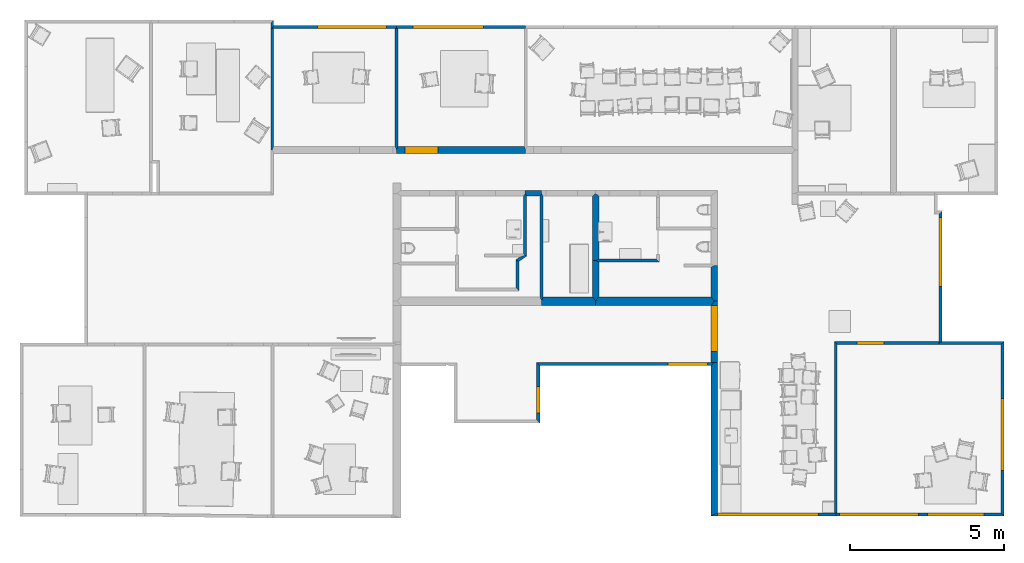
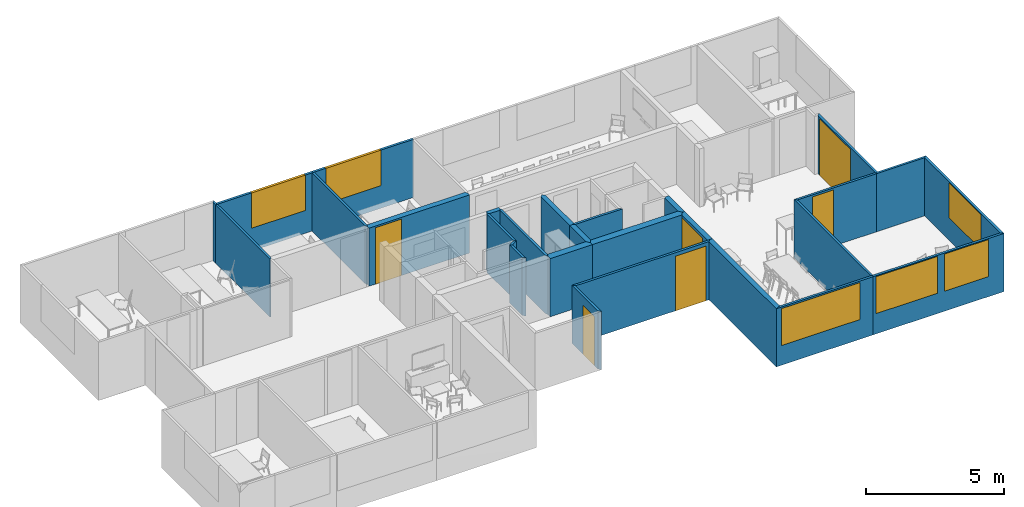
# One storey, part 3 of 25: 28 walls, 6 doors, 6 windows, 12 openings.
"""IFC2X3 building model written with IfcOpenShell, lengths in metres."""

import ifcopenshell
import ifcopenshell.guid

model = None  # the IFC model being written
_history = None  # IfcOwnerHistory: only IFC2X3 demands one
_inside = {}  # id of a spatial element -> (the spatial element, [elements in it])
_under = {}  # id of a project, library or spatial element -> (it, [spatial elements below it])
_declared = {}  # id of a project -> (the project, [libraries it declares])
_typed = {}  # id of a type object -> (the type object, [elements of that type])
_made_of = {}  # id of a material, layer set ... -> (it, [elements and type objects made of it])


def new_model(schema):
    """Start an empty IFC model of exactly this schema.

    Asked for "IFC4X3", IfcOpenShell would pick the latest addendum, in which some entities
    have other attributes; the version numbers below select the first issue.
    IFC2X3 requires an IfcOwnerHistory on every rooted entity: one is made here for all.
    """
    global model, _history
    if schema == "IFC4X3":
        model = ifcopenshell.file(schema_version=(4, 3, 0, 0))
    else:
        model = ifcopenshell.file(schema=schema)
    _inside.clear()
    _under.clear()
    _declared.clear()
    _typed.clear()
    _made_of.clear()
    _history = None
    if model.schema == "IFC2X3":
        org = make("IfcOrganization", Name="unknown")
        user = make(
            "IfcPersonAndOrganization",
            ThePerson=make("IfcPerson", FamilyName="unknown"),
            TheOrganization=org,
        )
        app = make(
            "IfcApplication",
            ApplicationDeveloper=org,
            Version="unknown",
            ApplicationFullName="unknown",
            ApplicationIdentifier="unknown",
        )
        _history = make(
            "IfcOwnerHistory",
            OwningUser=user,
            OwningApplication=app,
            ChangeAction="ADDED",
            CreationDate=0,
        )
    return model


def make(cls, **values):
    """One entity of the class cls with the attributes given. An attribute that is None is left unset."""
    return model.create_entity(
        cls, **{name: value for name, value in values.items() if value is not None}
    )


def rooted(cls, **values):
    """An entity with a GlobalId (a new one), such as an element, a storey or a relation."""
    return make(cls, GlobalId=ifcopenshell.guid.new(), OwnerHistory=_history, **values)


def si_unit(unit_type, name, prefix=None):
    """IfcSIUnit, for example si_unit("LENGTHUNIT", "METRE", prefix="MILLI")."""
    return make("IfcSIUnit", UnitType=unit_type, Prefix=prefix, Name=name)


def assignment(units):
    """IfcUnitAssignment: the units of a project."""
    return None if units is None else make("IfcUnitAssignment", Units=units)


def point(xyz):
    """IfcCartesianPoint."""
    return None if xyz is None else make("IfcCartesianPoint", Coordinates=xyz)


def direction(xyz):
    """IfcDirection."""
    return None if xyz is None else make("IfcDirection", DirectionRatios=xyz)


def frame(location, z_axis=None, x_axis=None):
    """IfcAxis2Placement3D, a coordinate frame: its origin and axes. An axis left out is left unset."""
    return make(
        "IfcAxis2Placement3D",
        Location=point(location),
        Axis=direction(z_axis),
        RefDirection=direction(x_axis),
    )


def origin_with_axes():
    """The frame at (0, 0, 0) with the z axis (0, 0, 1) and the x axis (1, 0, 0) written out."""
    return frame((0.0, 0.0, 0.0), z_axis=(0.0, 0.0, 1.0), x_axis=(1.0, 0.0, 0.0))


def place(relative_to, where):
    """IfcLocalPlacement: puts the frame where relative to a parent placement (None: the world)."""
    return make(
        "IfcLocalPlacement", PlacementRelTo=relative_to, RelativePlacement=where
    )


def context(
    kind, dimensions, precision=None, world=None, true_north=None, identifier=None
):
    """IfcGeometricRepresentationContext, for example the 3D "Model" context."""
    return make(
        "IfcGeometricRepresentationContext",
        ContextIdentifier=identifier,
        ContextType=kind,
        CoordinateSpaceDimension=dimensions,
        Precision=precision,
        WorldCoordinateSystem=world,
        TrueNorth=true_north,
    )


def subcontext(parent, identifier, kind, view, scale=None):
    """IfcGeometricRepresentationSubContext, for example "Body" below "Model"."""
    return make(
        "IfcGeometricRepresentationSubContext",
        ContextIdentifier=identifier,
        ContextType=kind,
        ParentContext=parent,
        TargetScale=scale,
        TargetView=view,
    )


def project(units=None, contexts=None):
    """IfcProject with its units and contexts."""
    return rooted(
        "IfcProject",
        Name="project",
        RepresentationContexts=contexts,
        UnitsInContext=assignment(units),
    )


def spatial(cls, under=None, at=None, **own):
    """A site, building, storey or space (cls), placed at a placement, below another one or the project."""
    s = rooted(cls, ObjectPlacement=at, **own)
    if under is not None:
        _under.setdefault(under.id(), (under, []))[1].append(s)
    return s


def polyline(points):
    """IfcPolyline through the points."""
    return make("IfcPolyline", Points=[point(p) for p in points])


def outline(outer, holes=None, kind="AREA"):
    """IfcArbitraryClosedProfileDef: a profile drawn as a closed curve; with holes, ...WithVoids."""
    if holes is None:
        return make("IfcArbitraryClosedProfileDef", ProfileType=kind, OuterCurve=outer)
    return make(
        "IfcArbitraryProfileDefWithVoids",
        ProfileType=kind,
        OuterCurve=outer,
        InnerCurves=holes,
    )


def extrude(swept, where, along, depth):
    """IfcExtrudedAreaSolid: the profile swept, set in the frame where, extruded along a direction by depth."""
    return make(
        "IfcExtrudedAreaSolid",
        SweptArea=swept,
        Position=where,
        ExtrudedDirection=direction(along),
        Depth=depth,
    )


def shape(context_of_items, identifier, shape_type, items):
    """IfcShapeRepresentation: the items that make up one representation, for example the "Body"."""
    return make(
        "IfcShapeRepresentation",
        ContextOfItems=context_of_items,
        RepresentationIdentifier=identifier,
        RepresentationType=shape_type,
        Items=items,
    )


def made_of(thing, what):
    """Note that an element or type object is made of a material, layer set ...; save() writes the relation."""
    if what is not None:
        _made_of.setdefault(what.id(), (what, []))[1].append(thing)
    return thing


def type_object(cls, material=None, **own):
    """A type object (cls), such as IfcWallType, which elements share."""
    return made_of(rooted(cls, **own), material)


def element(
    cls,
    number,
    at=None,
    inside=None,
    cuts=None,
    type_object=None,
    material=None,
    context=None,
    identifier="Body",
    shape_type=None,
    held_by="IfcProductDefinitionShape",
    body=None,
    shapes=None,
    **own,
):
    """One element of the class cls, such as IfcWall. Its Tag is "e" and its number.

    at: its placement. inside: the storey or other place that contains it. cuts: it is an
    opening in that element (IfcRelVoidsElement). A single representation is given by context,
    identifier, shape_type and body (its items); several are given by shapes. held_by: the class
    of the entity that holds the representations. save() writes the other relations.
    """
    e = rooted(cls, Tag="e%d" % number, ObjectPlacement=at, **own)
    if body is not None:
        shapes = [shape(context, identifier, shape_type, body)]
    if shapes is not None:
        e.Representation = make(held_by, Representations=shapes)
    if inside is not None:
        _inside.setdefault(inside.id(), (inside, []))[1].append(e)
    if cuts is not None:
        rooted(
            "IfcRelVoidsElement", RelatingBuildingElement=cuts, RelatedOpeningElement=e
        )
    if type_object is not None:
        _typed.setdefault(type_object.id(), (type_object, []))[1].append(e)
    return made_of(e, material)


def fill(opening, filler):
    """IfcRelFillsElement: the door or window that sits in an opening."""
    return rooted(
        "IfcRelFillsElement",
        RelatingOpeningElement=opening,
        RelatedBuildingElement=filler,
    )


def aggregate(whole, parts):
    """IfcRelAggregates: a whole, such as a stair, and the parts it consists of."""
    return rooted("IfcRelAggregates", RelatingObject=whole, RelatedObjects=parts)


def save(model, path):
    """Write the relations noted so far, then the file.

    IfcRelAggregates (storeys below a building ...), IfcRelContainedInSpatialStructure (elements
    in a storey), IfcRelDefinesByType, IfcRelAssociatesMaterial and IfcRelDeclares: one each for
    every whole, place, type object, material and project.
    """
    for whole, parts in _under.values():
        aggregate(whole, parts)
    for where, things in _inside.values():
        rooted(
            "IfcRelContainedInSpatialStructure",
            RelatedElements=things,
            RelatingStructure=where,
        )
    for kind, things in _typed.values():
        rooted("IfcRelDefinesByType", RelatedObjects=things, RelatingType=kind)
    for what, things in _made_of.values():
        rooted("IfcRelAssociatesMaterial", RelatedObjects=things, RelatingMaterial=what)
    for by, libraries in _declared.values():
        rooted("IfcRelDeclares", RelatingContext=by, RelatedDefinitions=libraries)
    model.write(path)


model = new_model("IFC2X3")

# Units and contexts
model_context = context("Model", 3, precision=1e-05, world=origin_with_axes(), true_north=direction((0.996, -0.093, 0.0)))
body_context = subcontext(model_context, "Body", "Model", "MODEL_VIEW")
ifc_project = project(units=[si_unit("LENGTHUNIT", "METRE"), si_unit("AREAUNIT", "SQUARE_METRE")], contexts=[model_context])

# Site, building, storey
site_placement = place(None, origin_with_axes())
site = spatial("IfcSite", under=ifc_project, at=site_placement, Name="Site", CompositionType="ELEMENT")
building_placement = place(site_placement, origin_with_axes())
building = spatial("IfcBuilding", under=site, at=building_placement, Name="Building", CompositionType="ELEMENT")
storey_placement = place(building_placement, frame((0.0, 0.0, 0.0500001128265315), z_axis=(0.0, 0.0, 1.0), x_axis=(1.0, 0.0, 0.0)))
storey = spatial("IfcBuildingStorey", under=building, at=storey_placement, Name="Story 0", CompositionType="ELEMENT", Elevation=0.0499999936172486)

# Wall, opening, window
wall_type_1 = type_object("IfcWallType", PredefinedType="STANDARD")
wall_1_placement = place(storey_placement, frame((6.05685358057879, 11.0852164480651, 0.0), z_axis=(0.0, 0.0, 1.0), x_axis=(1.0, 0.0, 0.0)))
wall_1 = element("IfcWallStandardCase", 1, at=wall_1_placement, inside=storey, type_object=wall_type_1, Name="Wall", context=body_context, shape_type="SweptSolid", body=[
    extrude(outline(polyline([(0.0, 0.0), (-0.0463823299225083, -1.50883678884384e-08), (0.000229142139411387, 0.0999999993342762), (3.99570325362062, 0.100001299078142), (3.99570328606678, 1.29981840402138e-06), (3.94932095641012, 1.28473004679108e-06), (0.0, 0.0)])), origin_with_axes(), (0.0, 0.0, 1.0), 2.5729394),
])
opening_1_placement = place(wall_1_placement, frame((1.42447395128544, 0.0, 1.01125042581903), z_axis=(0.0, 0.0, 1.0), x_axis=(1.00000000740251, 0.0, 0.0)))
opening_1 = element("IfcOpeningElement", 2, at=opening_1_placement, cuts=wall_1, Name="OpeningElement", ObjectType="OPENING", context=body_context, shape_type="SweptSolid", body=[
    extrude(outline(polyline([(-8.88178419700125e-16, 0.0), (2.2489290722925, 0.0), (2.2489290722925, 1.561688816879), (-8.88178419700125e-16, 1.561688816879), (-8.88178419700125e-16, 0.0)])), frame((0.0, 0.0, 0.0), z_axis=(0.0, -1.0, 0.0), x_axis=(1.0, 0.0, 0.0)), (0.0, 0.0, -1.0), 0.100099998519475),
])
window_style_1 = type_object("IfcWindowStyle", Name="435e22e6-daca-4e09-81b2-6c01cee1c8a2", ConstructionType="ALUMINIUM", OperationType="SINGLE_PANEL", ParameterTakesPrecedence=True, Sizeable=True)
window_1_placement = place(opening_1_placement, origin_with_axes())
window_1 = element("IfcWindow", 3, at=window_1_placement, inside=storey, type_object=window_style_1, Name="Window", OverallHeight=1.5, OverallWidth=0.5, context=body_context, shape_type="SweptSolid", body=[
    extrude(outline(polyline([(0.0, 0.0), (-2.24892893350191, 0.0), (-2.24892893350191, 1.56168884), (0.0, 1.56168884), (0.0, 0.0)])), frame((0.0, 0.0999999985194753, 0.0), z_axis=(0.0, 1.0, 0.0), x_axis=(-1.0, 0.0, 0.0)), (0.0, 0.0, -1.0), 0.0999999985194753),
])
fill(opening_1, window_1)

# Walls
wall_type_2 = type_object("IfcWallType", PredefinedType="STANDARD")
wall_2_placement = place(storey_placement, frame((10.0061745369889, 11.0852177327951, 0.0), z_axis=(0.0, 0.0, 1.0), x_axis=(1.0, 0.0, 0.0)))
element("IfcWallStandardCase", 4, at=wall_2_placement, inside=storey, type_object=wall_type_2, Name="Wall", context=body_context, shape_type="SweptSolid", body=[
    extrude(outline(polyline([(0.0, 0.0), (0.0463823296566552, 1.50883572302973e-08), (0.0927646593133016, 3.073068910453e-08), (0.0927654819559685, -3.82788218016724), (0.0463831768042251, -3.94190726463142), (8.22642672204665e-07, -3.8278822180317), (0.0, 0.0)])), origin_with_axes(), (0.0, 0.0, 1.0), 2.5729394),
])
wall_type_3 = type_object("IfcWallType", PredefinedType="STANDARD")
wall_3_placement = place(storey_placement, frame((5.96408892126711, 11.085211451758, 0.0), z_axis=(0.0, 0.0, 1.0), x_axis=(1.0, 0.0, 0.0)))
element("IfcWallStandardCase", 5, at=wall_3_placement, inside=storey, type_object=wall_type_3, Name="Wall", context=body_context, shape_type="SweptSolid", body=[
    extrude(outline(polyline([(0.0, 0.0), (0.046382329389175, 4.98121871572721e-06), (0.0927646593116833, 4.99630708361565e-06), (0.0931757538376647, -3.82787785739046), (0.0468056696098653, -3.94190294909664), (0.000423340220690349, -3.94190793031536), (0.0, 0.0)])), origin_with_axes(), (0.0, 0.0, 1.0), 2.5729394),
])
wall_type_4 = type_object("IfcWallType", PredefinedType="STANDARD")
wall_4_placement = place(storey_placement, frame((16.437954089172, 2.3638263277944, 0.0), z_axis=(0.0, 0.0, 1.0), x_axis=(1.0, 0.0, 0.0)))
element("IfcWallStandardCase", 6, at=wall_4_placement, inside=storey, type_object=wall_type_4, Name="Wall", context=body_context, shape_type="SweptSolid", body=[
    extrude(outline(polyline([(0.0, 0.0), (-1.85461018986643e-07, 1.17787432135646), (0.0988194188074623, 1.177874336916), (0.197639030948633, 1.12787441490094), (0.19763920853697, 4.21498862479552e-08), (0.0988196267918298, -0.143047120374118), (0.0, 0.0)])), origin_with_axes(), (0.0, 0.0, 1.0), 2.5729394),
])
wall_type_5 = type_object("IfcWallType", PredefinedType="STANDARD")
wall_5_placement = place(storey_placement, frame((16.6355931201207, 3.49170074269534, 0.0), z_axis=(0.0, 0.0, 1.0), x_axis=(1.0, 0.0, 0.0)))
element("IfcWallStandardCase", 7, at=wall_5_placement, inside=storey, type_object=wall_type_5, Name="Wall", context=body_context, shape_type="SweptSolid", body=[
    extrude(outline(polyline([(0.0, 0.0), (-0.0988196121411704, 0.049999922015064), (-4.51131576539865e-08, 0.0999999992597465), (1.87959196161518, 0.100001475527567), (1.97959197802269, 1.55480972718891e-06), (0.0, 0.0)])), origin_with_axes(), (0.0, 0.0, 1.0), 2.5729394),
])
wall_type_6 = type_object("IfcWallType", PredefinedType="STANDARD")
wall_6_placement = place(storey_placement, frame((20.2917809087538, 2.36382724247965, 0.0), z_axis=(0.0, 0.0, 1.0), x_axis=(1.0, 0.0, 0.0)))
element("IfcWallStandardCase", 8, at=wall_6_placement, inside=storey, type_object=wall_type_6, Name="Wall", context=body_context, shape_type="SweptSolid", body=[
    extrude(outline(polyline([(0.0, 0.0), (-4.13447462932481e-07, 0.962574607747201), (0.101290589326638, 1.01257452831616), (0.202581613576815, 1.01257457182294), (0.202582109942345, -0.143047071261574), (0.101291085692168, -0.14304711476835), (0.0, 0.0)])), origin_with_axes(), (0.0, 0.0, 1.0), 2.5729394),
])
wall_type_7 = type_object("IfcWallType", PredefinedType="STANDARD")
wall_7_placement = place(storey_placement, frame((16.5367737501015, 2.0777320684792, 0.0), z_axis=(0.0, 0.0, 1.0), x_axis=(1.0, 0.0, 0.0)))
element("IfcWallStandardCase", 9, at=wall_7_placement, inside=storey, type_object=wall_type_7, Name="Wall", context=body_context, shape_type="SweptSolid", body=[
    extrude(outline(polyline([(0.0, 0.0), (-3.41376562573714e-08, 0.14304713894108), (0.0988195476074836, 0.286094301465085), (3.75500715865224, 0.286095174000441), (3.8562982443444, 0.143048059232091), (3.7550072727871, 8.96118290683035e-07), (0.0, 0.0)])), origin_with_axes(), (0.0, 0.0, 1.0), 2.5729394),
])

# Wall, opening, window
wall_type_8 = type_object("IfcWallType", PredefinedType="STANDARD")
wall_8_placement = place(storey_placement, frame((20.2917828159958, -4.76651428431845, 0.0), z_axis=(0.0, 0.0, 1.0), x_axis=(1.0, 0.0, 0.0)))
wall_8 = element("IfcWallStandardCase", 10, at=wall_8_placement, inside=storey, type_object=wall_type_8, Name="Wall", context=body_context, shape_type="SweptSolid", body=[
    extrude(outline(polyline([(0.0, 0.0), (0.202582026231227, 0.100000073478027), (4.00875737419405, 0.100001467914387), (4.05513970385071, 0.100001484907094), (4.05513973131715, 1.48564735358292e-06), (0.0, 0.0)])), origin_with_axes(), (0.0, 0.0, 1.0), 2.5729394),
])
opening_2_placement = place(wall_8_placement, frame((3.49161362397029, 0.10000127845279, 0.872057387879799), z_axis=(0.0, 0.0, 1.0), x_axis=(-1.00000000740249, 0.0, 0.0)))
opening_2 = element("IfcOpeningElement", 11, at=opening_2_placement, cuts=wall_8, Name="OpeningElement", ObjectType="OPENING", context=body_context, shape_type="SweptSolid", body=[
    extrude(outline(polyline([(0.0, 0.0), (3.27666135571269, 0.0), (3.27666135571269, 1.63146417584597), (0.0, 1.63146417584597), (0.0, 0.0)])), frame((0.0, 0.0, 0.0), z_axis=(0.0, -1.0, 0.0), x_axis=(1.0, 0.0, 0.0)), (0.0, 0.0, -1.0), 0.100099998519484),
])
window_style_2 = type_object("IfcWindowStyle", Name="11902ddd-a4e7-475e-81ff-8f0b5006834f", ConstructionType="ALUMINIUM", OperationType="SINGLE_PANEL", ParameterTakesPrecedence=True, Sizeable=True)
window_2_placement = place(opening_2_placement, origin_with_axes())
window_2 = element("IfcWindow", 12, at=window_2_placement, inside=storey, type_object=window_style_2, Name="Window", OverallHeight=1.5, OverallWidth=0.5, context=body_context, shape_type="SweptSolid", body=[
    extrude(outline(polyline([(-3.5527136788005e-15, 0.0), (-3.27666113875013, 0.0), (-3.27666113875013, 1.6314642), (-3.5527136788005e-15, 1.6314642), (-3.5527136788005e-15, 0.0)])), frame((0.0, 0.0999999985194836, 0.0), z_axis=(0.0, 1.0, 0.0), x_axis=(-1.0, 0.0, 0.0)), (0.0, 0.0, -1.0), 0.0999999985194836),
])
fill(opening_2, window_2)

# Wall, opening, door
wall_type_9 = type_object("IfcWallType", PredefinedType="STANDARD")
wall_9_placement = place(storey_placement, frame((27.7038629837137, 5.06036271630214, 0.0), z_axis=(0.0, 0.0, 1.0), x_axis=(1.0, 0.0, 0.0)))
wall_9 = element("IfcWallStandardCase", 13, at=wall_9_placement, inside=storey, type_object=wall_type_9, Name="Wall", context=body_context, shape_type="SweptSolid", body=[
    extrude(outline(polyline([(0.0, 0.0), (0.0999999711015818, 0.0999992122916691), (0.100001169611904, -4.15631873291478), (1.18341267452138e-06, -4.20270108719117), (1.17035215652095e-06, -4.15631875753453), (0.0, 0.0)])), origin_with_axes(), (0.0, 0.0, 1.0), 2.5729394),
])
opening_3_placement = place(wall_9_placement, frame((0.0, -0.113515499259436, 0.0), z_axis=(0.0, 0.0, 1.0), x_axis=(0.0, -1.00000000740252, 0.0)))
opening_3 = element("IfcOpeningElement", 14, at=opening_3_placement, cuts=wall_9, Name="OpeningElement", ObjectType="OPENING", context=body_context, shape_type="SweptSolid", body=[
    extrude(outline(polyline([(3.76226624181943e-16, 0.0), (2.24195536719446, 0.0), (2.24195536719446, 2.50352186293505), (3.76226624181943e-16, 2.50352186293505), (3.76226624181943e-16, 0.0)])), frame((0.0, 0.0, 0.0), z_axis=(0.0, -1.0, 0.0), x_axis=(1.0, 0.0, 0.0)), (0.0, 0.0, -1.0), 0.100099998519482),
])
door_style_1 = type_object("IfcDoorStyle", Name="9043923e-156c-443a-82d1-04b28e62ca53", ConstructionType="NOTDEFINED", OperationType="NOTDEFINED", ParameterTakesPrecedence=False, Sizeable=False)
door_1_placement = place(opening_3_placement, origin_with_axes())
door_1 = element("IfcDoor", 15, at=door_1_placement, inside=storey, type_object=door_style_1, Name="Door", OverallHeight=2.5035219, OverallWidth=2.24195607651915, context=body_context, shape_type="SweptSolid", body=[
    extrude(outline(polyline([(3.76695880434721e-16, 0.0), (-2.24195523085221, 0.0), (-2.24195523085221, 2.5035219), (3.76695880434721e-16, 2.5035219), (3.76695880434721e-16, 0.0)])), frame((0.0, 0.0999999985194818, 0.0), z_axis=(0.0, 1.0, 0.0), x_axis=(-1.0, 0.0, 0.0)), (0.0, 0.0, -1.0), 0.0999999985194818),
])
fill(opening_3, door_1)

wall_type_10 = type_object("IfcWallType", PredefinedType="STANDARD")
wall_10_placement = place(storey_placement, frame((20.2917817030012, 0.23140851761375, 0.0), z_axis=(0.0, 0.0, 1.0), x_axis=(1.0, 0.0, 0.0)))
wall_10 = element("IfcWallStandardCase", 16, at=wall_10_placement, inside=storey, type_object=wall_type_10, Name="Wall", context=body_context, shape_type="SweptSolid", body=[
    extrude(outline(polyline([(0.0, 0.0), (-6.80112616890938e-07, 1.84632444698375), (0.101290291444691, 1.98937161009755), (0.202581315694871, 1.98937164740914), (0.202582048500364, 5.59299886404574e-08), (0.10129102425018, 1.86183977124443e-08), (0.0, 0.0)])), origin_with_axes(), (0.0, 0.0, 1.0), 2.5729394),
])
opening_4_placement = place(wall_10_placement, frame((0.202581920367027, 0.347847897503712, 0.0), z_axis=(0.0, 0.0, 1.0), x_axis=(0.0, 1.00000000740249, 0.0)))
opening_4 = element("IfcOpeningElement", 17, at=opening_4_placement, cuts=wall_10, Name="OpeningElement", ObjectType="OPENING", context=body_context, shape_type="SweptSolid", body=[
    extrude(outline(polyline([(-2.32019264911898e-17, 0.0), (1.49847635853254, 0.0), (1.49847635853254, 2.44500200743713), (-2.32019264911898e-17, 2.44500200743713), (-2.32019264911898e-17, 0.0)])), frame((0.0, 0.0, 0.0), z_axis=(0.0, -1.0, 0.0), x_axis=(1.0, 0.0, 0.0)), (0.0, 0.0, -1.0), 0.202682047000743),
])
door_style_2 = type_object("IfcDoorStyle", Name="742d6de3-75e1-40bf-9151-543de0b4514c", ConstructionType="NOTDEFINED", OperationType="NOTDEFINED", ParameterTakesPrecedence=False, Sizeable=False)
door_2_placement = place(opening_4_placement, origin_with_axes())
door_2 = element("IfcDoor", 18, at=door_2_placement, inside=storey, type_object=door_style_2, Name="Door", OverallHeight=2.44500273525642, OverallWidth=1.5762143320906, context=body_context, shape_type="SweptSolid", body=[
    extrude(outline(polyline([(-1.17059953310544e-18, 0.0), (-1.49847625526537, 0.0), (-1.49847625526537, 2.44500204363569), (-1.17059953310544e-18, 2.44500204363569), (-1.17059953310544e-18, 0.0)])), frame((0.0, 0.202582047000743, 0.0), z_axis=(0.0, 1.0, 0.0), x_axis=(-1.0, 0.0, 0.0)), (0.0, 0.0, -1.0), 0.202582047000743),
])
fill(opening_4, door_2)

# Walls
wall_type_11 = type_object("IfcWallType", PredefinedType="STANDARD")
wall_11_placement = place(storey_placement, frame((14.2889992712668, 5.64056199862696, 0.0), z_axis=(0.0, 0.0, 1.0), x_axis=(1.0, 0.0, 0.0)))
element("IfcWallStandardCase", 19, at=wall_11_placement, inside=storey, type_object=wall_type_11, Name="Wall", context=body_context, shape_type="SweptSolid", body=[
    extrude(outline(polyline([(0.0, 0.0), (-0.0500000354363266, 0.0883233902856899), (-0.0500001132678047, 0.176646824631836), (0.486488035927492, 0.17664729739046), (0.486488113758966, 0.0883238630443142), (0.436488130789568, 3.84637626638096e-07), (0.0, 0.0)])), origin_with_axes(), (0.0, 0.0, 1.0), 2.5729394),
])
wall_type_12 = type_object("IfcWallType", PredefinedType="STANDARD")
wall_12_placement = place(storey_placement, frame((24.300540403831, 0.904042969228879, 0.0), z_axis=(0.0, 0.0, 1.0), x_axis=(1.0, 0.0, 0.0)))
element("IfcWallStandardCase", 20, at=wall_12_placement, inside=storey, type_object=wall_type_12, Name="Wall", context=body_context, shape_type="SweptSolid", body=[
    extrude(outline(polyline([(0.0, 0.0), (0.0927646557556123, -0.0927646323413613), (0.0927644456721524, -5.57055575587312), (0.0463821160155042, -5.57055576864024), (-2.13641150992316e-07, -5.57055578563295), (0.0, 0.0)])), origin_with_axes(), (0.0, 0.0, 1.0), 2.5729394),
])

# Wall, opening, door
wall_type_13 = type_object("IfcWallType", PredefinedType="STANDARD")
wall_13_placement = place(storey_placement, frame((24.3933050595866, 0.811278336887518, 0.0), z_axis=(0.0, 0.0, 1.0), x_axis=(1.0, 0.0, 0.0)))
wall_13 = element("IfcWallStandardCase", 21, at=wall_13_placement, inside=storey, type_object=wall_type_13, Name="Wall", context=body_context, shape_type="SweptSolid", body=[
    extrude(outline(polyline([(0.0, 0.0), (-0.0927646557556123, 0.0927646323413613), (3.31055909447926, 0.0927656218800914), (3.31055910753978, 0.0463832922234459), (3.31055912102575, 9.62566796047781e-07), (0.0, 0.0)])), origin_with_axes(), (0.0, 0.0, 1.0), 2.5729394),
])
opening_5_placement = place(wall_13_placement, frame((0.64069133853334, 0.0, 0.0), z_axis=(0.0, 0.0, 1.0), x_axis=(1.00000000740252, 0.0, 0.0)))
opening_5 = element("IfcOpeningElement", 22, at=opening_5_placement, cuts=wall_13, Name="OpeningElement", ObjectType="OPENING", context=body_context, shape_type="SweptSolid", body=[
    extrude(outline(polyline([(0.0, 0.0), (0.87662176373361, 0.0), (0.87662176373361, 2.48644310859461), (0.0, 2.48644310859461), (0.0, 0.0)])), frame((0.0, 0.0, 0.0), z_axis=(0.0, -1.0, 0.0), x_axis=(1.0, 0.0, 0.0)), (0.0, 0.0, -1.0), 0.0928646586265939),
])
door_style_3 = type_object("IfcDoorStyle", Name="7f82c85e-e786-4428-8fdc-c8922ff47bcc", ConstructionType="NOTDEFINED", OperationType="NOTDEFINED", ParameterTakesPrecedence=False, Sizeable=False)
door_3_placement = place(opening_5_placement, origin_with_axes())
door_3 = element("IfcDoor", 23, at=door_3_placement, inside=storey, type_object=door_style_3, Name="Door", OverallHeight=2.4864431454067, OverallWidth=0.876621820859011, context=body_context, shape_type="SweptSolid", body=[
    extrude(outline(polyline([(0.0, 0.0), (-0.876621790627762, 0.0), (-0.876621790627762, 2.4864431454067), (0.0, 2.4864431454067), (0.0, 0.0)])), frame((0.0, 0.0927646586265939, 0.0), z_axis=(0.0, 1.0, 0.0), x_axis=(-1.0, 0.0, 0.0)), (0.0, 0.0, -1.0), 0.0927646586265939),
])
fill(opening_5, door_3)

wall_type_14 = type_object("IfcWallType", PredefinedType="STANDARD")
wall_14_placement = place(storey_placement, frame((10.0525577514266, 7.02928539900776, 0.0), z_axis=(0.0, 0.0, 1.0), x_axis=(1.0, 0.0, 0.0)))
wall_14 = element("IfcWallStandardCase", 24, at=wall_14_placement, inside=storey, type_object=wall_type_14, Name="Wall", context=body_context, shape_type="SweptSolid", body=[
    extrude(outline(polyline([(0.0, 0.0), (-3.76334217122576e-08, 0.114025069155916), (0.0463822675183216, 0.228050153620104), (4.1591067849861, 0.228051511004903), (4.2054891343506, 0.114026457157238), (4.20548917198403, 1.38800132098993e-06), (0.0, 0.0)])), origin_with_axes(), (0.0, 0.0, 1.0), 2.5729394),
])
opening_6_placement = place(wall_14_placement, frame((0.273498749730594, 0.0, 0.0), z_axis=(0.0, 0.0, 1.0), x_axis=(1.00000000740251, 0.0, 0.0)))
opening_6 = element("IfcOpeningElement", 25, at=opening_6_placement, cuts=wall_14, Name="OpeningElement", ObjectType="OPENING", context=body_context, shape_type="SweptSolid", body=[
    extrude(outline(polyline([(1.77635683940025e-15, 0.0), (1.08608885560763, 0.0), (1.08608885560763, 2.49794977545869), (1.77635683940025e-15, 2.49794977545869), (1.77635683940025e-15, 0.0)])), frame((0.0, 0.0, 0.0), z_axis=(0.0, -1.0, 0.0), x_axis=(1.0, 0.0, 0.0)), (0.0, 0.0, -1.0), 0.228150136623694),
])
door_style_4 = type_object("IfcDoorStyle", Name="3130f5bd-f524-41eb-9939-1236aa011e5d", ConstructionType="NOTDEFINED", OperationType="NOTDEFINED", ParameterTakesPrecedence=False, Sizeable=False)
door_4_placement = place(opening_6_placement, origin_with_axes())
door_4 = element("IfcDoor", 26, at=door_4_placement, inside=storey, type_object=door_style_4, Name="Door", OverallHeight=2.49795038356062, OverallWidth=1.08608894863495, context=body_context, shape_type="SweptSolid", body=[
    extrude(outline(polyline([(-1.77635683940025e-15, 0.0), (-1.08608879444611, 0.0), (-1.08608879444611, 2.49794981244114), (-1.77635683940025e-15, 2.49794981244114), (-1.77635683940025e-15, 0.0)])), frame((0.0, 0.228050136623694, 0.0), z_axis=(0.0, 1.0, 0.0), x_axis=(-1.0, 0.0, 0.0)), (0.0, 0.0, -1.0), 0.228050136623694),
])
fill(opening_6, door_4)

# Walls
wall_type_15 = type_object("IfcWallType", PredefinedType="STANDARD")
wall_15_placement = place(storey_placement, frame((20.2917817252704, 0.131408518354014, 0.0), z_axis=(0.0, 0.0, 1.0), x_axis=(1.0, 0.0, 0.0)))
element("IfcWallStandardCase", 27, at=wall_15_placement, inside=storey, type_object=wall_type_15, Name="Wall", context=body_context, shape_type="SweptSolid", body=[
    extrude(outline(polyline([(0.0, 0.0), (0.101291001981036, 0.100000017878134), (0.202582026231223, 0.100000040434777), (0.202583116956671, -4.79792272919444), (1.09072544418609e-06, -4.89792280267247), (0.0, 0.0)])), origin_with_axes(), (0.0, 0.0, 1.0), 2.5729394),
])
wall_type_16 = type_object("IfcWallType", PredefinedType="STANDARD")
wall_16_placement = place(storey_placement, frame((14.7754880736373, 2.07773173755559, 0.0), z_axis=(0.0, 0.0, 1.0), x_axis=(1.0, 0.0, 0.0)))
element("IfcWallStandardCase", 28, at=wall_16_placement, inside=storey, type_object=wall_type_16, Name="Wall", context=body_context, shape_type="SweptSolid", body=[
    extrude(outline(polyline([(0.0, 0.0), (-2.6876774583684e-08, 0.143047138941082), (0.0499999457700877, 0.28609428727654), (1.66246601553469, 0.286094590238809), (1.76128564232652, 0.14304746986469), (1.76128566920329, 3.30923608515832e-07), (0.0, 0.0)])), origin_with_axes(), (0.0, 0.0, 1.0), 2.5729394),
])
wall_type_17 = type_object("IfcWallType", PredefinedType="STANDARD")
wall_17_placement = place(storey_placement, frame((14.7254874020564, 5.64056238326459, 0.0), z_axis=(0.0, 0.0, 1.0), x_axis=(1.0, 0.0, 0.0)))
element("IfcWallStandardCase", 29, at=wall_17_placement, inside=storey, type_object=wall_type_17, Name="Wall", context=body_context, shape_type="SweptSolid", body=[
    extrude(outline(polyline([(0.0, 0.0), (0.049999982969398, 0.0883234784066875), (0.0999999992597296, 5.38554445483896e-08), (0.100000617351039, -3.27673635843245), (0.050000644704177, -3.41978350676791), (6.18091304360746e-07, -3.27673637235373), (0.0, 0.0)])), origin_with_axes(), (0.0, 0.0, 1.0), 2.5729394),
])
wall_type_18 = type_object("IfcWallType", PredefinedType="STANDARD")
wall_18_placement = place(storey_placement, frame((16.437953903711, 3.5417005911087, 0.0), z_axis=(0.0, 0.0, 1.0), x_axis=(1.0, 0.0, 0.0)))
element("IfcWallStandardCase", 30, at=wall_18_placement, inside=storey, type_object=wall_type_18, Name="Wall", context=body_context, shape_type="SweptSolid", body=[
    extrude(outline(polyline([(0.0, 0.0), (-1.56325097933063e-06, 2.09886216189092), (0.0988179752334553, 2.1871856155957), (0.197637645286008, 2.09886221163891), (0.197639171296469, 0.0500001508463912), (0.0988196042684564, 7.36017087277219e-08), (0.0, 0.0)])), origin_with_axes(), (0.0, 0.0, 1.0), 2.5729394),
])
wall_type_19 = type_object("IfcWallType", PredefinedType="STANDARD")
wall_19_placement = place(storey_placement, frame((27.7038641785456, 0.811279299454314, 0.0), z_axis=(0.0, 0.0, 1.0), x_axis=(1.0, 0.0, 0.0)))
element("IfcWallStandardCase", 31, at=wall_19_placement, inside=storey, type_object=wall_type_19, Name="Wall", context=body_context, shape_type="SweptSolid", body=[
    extrude(outline(polyline([(0.0, 0.0), (-1.14192069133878e-08, 0.0463823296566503), (0.0999999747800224, 0.0927646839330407), (2.11718423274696, 0.0927651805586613), (2.01718423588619, 4.96625610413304e-07), (0.0, 0.0)])), origin_with_axes(), (0.0, 0.0, 1.0), 2.5729394),
])

# Wall, opening, window
wall_type_20 = type_object("IfcWallType", PredefinedType="STANDARD")
wall_20_placement = place(storey_placement, frame((29.7210484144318, 0.811279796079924, 0.0), z_axis=(0.0, 0.0, 1.0), x_axis=(1.0, 0.0, 0.0)))
wall_20 = element("IfcWallStandardCase", 32, at=wall_20_placement, inside=storey, type_object=wall_type_20, Name="Wall", context=body_context, shape_type="SweptSolid", body=[
    extrude(outline(polyline([(0.0, 0.0), (0.0999999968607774, 0.0927646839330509), (0.100000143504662, -5.57779108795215), (1.4165886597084e-07, -5.47779111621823), (0.0, 0.0)])), origin_with_axes(), (0.0, 0.0, 1.0), 2.5729394),
])
opening_7_placement = place(wall_20_placement, frame((0.0, -1.75345648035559, 0.993322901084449), z_axis=(0.0, 0.0, 1.0), x_axis=(0.0, -1.00000000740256, 0.0)))
opening_7 = element("IfcOpeningElement", 33, at=opening_7_placement, cuts=wall_20, Name="OpeningElement", ObjectType="OPENING", context=body_context, shape_type="SweptSolid", body=[
    extrude(outline(polyline([(4.64063940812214e-17, 0.0), (2.33859154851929, 0.0), (2.33859154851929, 1.53574247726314), (4.64063940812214e-17, 1.53574247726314), (4.64063940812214e-17, 0.0)])), frame((0.0, 0.0, 0.0), z_axis=(0.0, -1.0, 0.0), x_axis=(1.0, 0.0, 0.0)), (0.0, 0.0, -1.0), 0.100099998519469),
])
window_style_3 = type_object("IfcWindowStyle", Name="eae66a75-3b0f-44b5-bbbd-79d7825f425f", ConstructionType="ALUMINIUM", OperationType="SINGLE_PANEL", ParameterTakesPrecedence=True, Sizeable=True)
window_3_placement = place(opening_7_placement, origin_with_axes())
window_3 = element("IfcWindow", 34, at=window_3_placement, inside=storey, type_object=window_style_3, Name="Window", OverallHeight=1.5, OverallWidth=0.5, context=body_context, shape_type="SweptSolid", body=[
    extrude(outline(polyline([(-4.29657462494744e-18, 0.0), (-2.33859135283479, 0.0), (-2.33859135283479, 1.5357425), (-4.29657462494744e-18, 1.5357425), (-4.29657462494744e-18, 0.0)])), frame((0.0, 0.0999999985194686, 0.0), z_axis=(0.0, 1.0, 0.0), x_axis=(-1.0, 0.0, 0.0)), (0.0, 0.0, -1.0), 0.0999999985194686),
])
fill(opening_7, window_3)

# Wall, openings, windows
wall_type_21 = type_object("IfcWallType", PredefinedType="STANDARD")
wall_21_placement = place(storey_placement, frame((24.3469225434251, -4.7665127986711, 0.0), z_axis=(0.0, 0.0, 1.0), x_axis=(1.0, 0.0, 0.0)))
wall_21 = element("IfcWallStandardCase", 35, at=wall_21_placement, inside=storey, type_object=wall_type_21, Name="Wall", context=body_context, shape_type="SweptSolid", body=[
    extrude(outline(polyline([(0.0, 0.0), (-2.35785400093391e-08, 0.0999999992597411), (0.0463823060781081, 0.100000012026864), (5.37412601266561, 0.100001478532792), (5.4741260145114, 1.50679887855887e-06), (0.0, 0.0)])), origin_with_axes(), (0.0, 0.0, 1.0), 2.5729394),
])
opening_8_placement = place(wall_21_placement, frame((4.82009358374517, 0.100001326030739, 0.887529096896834), z_axis=(0.0, 0.0, 1.0), x_axis=(-1.00000000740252, 0.0, 0.0)))
opening_8 = element("IfcOpeningElement", 36, at=opening_8_placement, cuts=wall_21, Name="OpeningElement", ObjectType="OPENING", context=body_context, shape_type="SweptSolid", body=[
    extrude(outline(polyline([(0.0, 0.0), (1.83275392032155, 0.0), (1.83275392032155, 1.64153637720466), (0.0, 1.64153637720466), (0.0, 0.0)])), frame((0.0, 0.0, 0.0), z_axis=(0.0, -1.0, 0.0), x_axis=(1.0, 0.0, 0.0)), (0.0, 0.0, -1.0), 0.100099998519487),
])
opening_9_placement = place(wall_21_placement, frame((2.6979600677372, 0.100000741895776, 0.898242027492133), z_axis=(0.0, 0.0, 1.0), x_axis=(-1.00000000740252, 0.0, 0.0)))
opening_9 = element("IfcOpeningElement", 37, at=opening_9_placement, cuts=wall_21, Name="OpeningElement", ObjectType="OPENING", context=body_context, shape_type="SweptSolid", body=[
    extrude(outline(polyline([(0.0, 0.0), (2.58300454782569, 0.0), (2.58300454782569, 1.63082337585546), (0.0, 1.63082337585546), (0.0, 0.0)])), frame((0.0, 0.0, 0.0), z_axis=(0.0, -1.0, 0.0), x_axis=(1.0, 0.0, 0.0)), (0.0, 0.0, -1.0), 0.100099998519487),
])
window_style_4 = type_object("IfcWindowStyle", Name="1762ee42-2041-4112-ad06-6c80e9f06b2f", ConstructionType="ALUMINIUM", OperationType="SINGLE_PANEL", ParameterTakesPrecedence=True, Sizeable=True)
window_4_placement = place(opening_8_placement, origin_with_axes())
window_4 = element("IfcWindow", 38, at=window_4_placement, inside=storey, type_object=window_style_4, Name="Window", OverallHeight=1.5, OverallWidth=0.5, context=body_context, shape_type="SweptSolid", body=[
    extrude(outline(polyline([(-3.5527136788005e-15, 0.0), (-1.83275397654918, 0.0), (-1.83275397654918, 1.64153640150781), (-3.5527136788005e-15, 1.64153640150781), (-3.5527136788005e-15, 0.0)])), frame((0.0, 0.0999999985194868, 0.0), z_axis=(0.0, 1.0, 0.0), x_axis=(-1.0, 0.0, 0.0)), (0.0, 0.0, -1.0), 0.0999999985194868),
])
fill(opening_8, window_4)
window_style_5 = type_object("IfcWindowStyle", Name="976c9493-f515-439e-9da4-8ac8455049f8", ConstructionType="ALUMINIUM", OperationType="SINGLE_PANEL", ParameterTakesPrecedence=True, Sizeable=True)
window_5_placement = place(opening_9_placement, origin_with_axes())
window_5 = element("IfcWindow", 39, at=window_5_placement, inside=storey, type_object=window_style_5, Name="Window", OverallHeight=1.5, OverallWidth=0.5, context=body_context, shape_type="SweptSolid", body=[
    extrude(outline(polyline([(0.0, 0.0), (-2.58300462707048, 0.0), (-2.58300462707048, 1.6308234), (0.0, 1.6308234), (0.0, 0.0)])), frame((0.0, 0.0999999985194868, 0.0), z_axis=(0.0, 1.0, 0.0), x_axis=(-1.0, 0.0, 0.0)), (0.0, 0.0, -1.0), 0.0999999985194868),
])
fill(opening_9, window_5)

# Walls
wall_type_22 = type_object("IfcWallType", PredefinedType="STANDARD")
wall_22_placement = place(storey_placement, frame((5.96408904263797, 11.0853226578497, 0.0), z_axis=(0.0, 0.0, 1.0), x_axis=(1.0, 0.0, 0.0)))
element("IfcWallStandardCase", 40, at=wall_22_placement, inside=storey, type_object=wall_type_22, Name="Wall", context=body_context, shape_type="SweptSolid", body=[
    extrude(outline(polyline([(0.0, 0.0), (0.00042243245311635, 0.184451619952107), (0.0934163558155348, 0.284451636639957), (0.09299368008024, 0.0998937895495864), (0.0463822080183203, -0.00010622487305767), (0.0, 0.0)])), origin_with_axes(), (0.0, 0.0, 1.0), 2.5729394),
])
wall_type_23 = type_object("IfcWallType", PredefinedType="STANDARD")
wall_23_placement = place(storey_placement, frame((13.9366233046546, 2.65763672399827, 0.0), z_axis=(0.0, 0.0, 1.0), x_axis=(1.0, 0.0, 0.0)))
element("IfcWallStandardCase", 41, at=wall_23_placement, inside=storey, type_object=wall_type_23, Name="Wall", context=body_context, shape_type="SweptSolid", body=[
    extrude(outline(polyline([(0.0, 0.0), (8.68419594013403e-07, 0.910058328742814), (0.100000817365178, 0.857331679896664), (0.0999999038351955, -0.0999999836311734), (0.0, 0.0)])), origin_with_axes(), (0.0, 0.0, 1.0), 2.5729394),
])
wall_type_24 = type_object("IfcWallType", PredefinedType="STANDARD")
wall_24_placement = place(storey_placement, frame((14.1889992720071, 5.64056194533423, 0.0), z_axis=(0.0, 0.0, 1.0), x_axis=(1.0, 0.0, 0.0)))
element("IfcWallStandardCase", 42, at=wall_24_placement, inside=storey, type_object=wall_type_24, Name="Wall", context=body_context, shape_type="SweptSolid", body=[
    extrude(outline(polyline([(0.0, 0.0), (0.0499999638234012, 0.0883234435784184), (0.0999999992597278, 5.32927284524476e-08), (0.100000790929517, -1.95280318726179), (0.0500007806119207, -1.92643988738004), (7.60711962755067e-07, -1.87643989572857), (0.0, 0.0)])), origin_with_axes(), (0.0, 0.0, 1.0), 2.5729394),
])
wall_type_25 = type_object("IfcWallType", PredefinedType="STANDARD")
wall_25_placement = place(storey_placement, frame((14.0366241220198, 3.51496840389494, 0.0), z_axis=(0.0, 0.0, 1.0), x_axis=(1.0, 0.0, 0.0)))
element("IfcWallStandardCase", 43, at=wall_25_placement, inside=storey, type_object=wall_type_25, Name="Wall", context=body_context, shape_type="SweptSolid", body=[
    extrude(outline(polyline([(0.0, 0.0), (-0.0999999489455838, 0.0527266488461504), (0.0408403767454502, 0.149153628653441), (0.202375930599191, 0.199153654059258), (0.252375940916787, 0.172790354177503), (0.0, 0.0)])), origin_with_axes(), (0.0, 0.0, 1.0), 2.5729394),
])

# Wall, opening, window
wall_type_26 = type_object("IfcWallType", PredefinedType="STANDARD")
wall_26_placement = place(storey_placement, frame((10.0989391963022, 11.0852177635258, 0.0), z_axis=(0.0, 0.0, 1.0), x_axis=(1.0, 0.0, 0.0)))
wall_26 = element("IfcWallStandardCase", 44, at=wall_26_placement, inside=storey, type_object=wall_type_26, Name="Wall", context=body_context, shape_type="SweptSolid", body=[
    extrude(outline(polyline([(0.0, 0.0), (-0.0463823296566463, -1.56423318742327e-08), (-0.0463823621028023, 0.0999999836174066), (4.1591069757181, 0.10000140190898), (4.15910700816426, 1.40264924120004e-06), (4.11272467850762, 1.38700689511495e-06), (0.0, 0.0)])), origin_with_axes(), (0.0, 0.0, 1.0), 2.5729394),
])
opening_10_placement = place(wall_26_placement, frame((0.48533631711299, 0.0, 1.00195904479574), z_axis=(0.0, 0.0, 1.0), x_axis=(1.0000000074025, 0.0, 0.0)))
opening_10 = element("IfcOpeningElement", 45, at=opening_10_placement, cuts=wall_26, Name="OpeningElement", ObjectType="OPENING", context=body_context, shape_type="SweptSolid", body=[
    extrude(outline(polyline([(1.77635683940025e-15, 0.0), (2.30545496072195, 0.0), (2.30545496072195, 1.57098019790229), (1.77635683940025e-15, 1.57098019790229), (1.77635683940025e-15, 0.0)])), frame((0.0, 0.0, 0.0), z_axis=(0.0, -1.0, 0.0), x_axis=(1.0, 0.0, 0.0)), (0.0, 0.0, -1.0), 0.10009999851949),
])
window_style_6 = type_object("IfcWindowStyle", Name="29ecc180-7f24-46e2-b569-c5d5652d47b0", ConstructionType="ALUMINIUM", OperationType="SINGLE_PANEL", ParameterTakesPrecedence=True, Sizeable=True)
window_6_placement = place(opening_10_placement, origin_with_axes())
window_6 = element("IfcWindow", 46, at=window_6_placement, inside=storey, type_object=window_style_6, Name="Window", OverallHeight=1.5, OverallWidth=0.5, context=body_context, shape_type="SweptSolid", body=[
    extrude(outline(polyline([(-1.77635683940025e-15, 0.0), (-2.30545481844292, 0.0), (-2.30545481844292, 1.57098022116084), (-1.77635683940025e-15, 1.57098022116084), (-1.77635683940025e-15, 0.0)])), frame((0.0, 0.0999999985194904, 0.0), z_axis=(0.0, 1.0, 0.0), x_axis=(-1.0, 0.0, 0.0)), (0.0, 0.0, -1.0), 0.0999999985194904),
])
fill(opening_10, window_6)

# Wall, opening, door
wall_type_27 = type_object("IfcWallType", PredefinedType="STANDARD")
wall_27_placement = place(storey_placement, frame((14.7181636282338, 0.131407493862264, 0.0), z_axis=(0.0, 0.0, 1.0), x_axis=(1.0, 0.0, 0.0)))
wall_27 = element("IfcWallStandardCase", 47, at=wall_27_placement, inside=storey, type_object=wall_type_27, Name="Wall", context=body_context, shape_type="SweptSolid", body=[
    extrude(outline(polyline([(0.0, 0.0), (-0.100000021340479, 0.0999999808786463), (5.5736180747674, 0.100001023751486), (5.67490909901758, 0.100001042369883), (5.57361809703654, 1.02449174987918e-06), (0.0, 0.0)])), origin_with_axes(), (0.0, 0.0, 1.0), 2.5729394),
])
opening_11_placement = place(wall_27_placement, frame((5.45328541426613, 0.100001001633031, 0.0), z_axis=(0.0, 0.0, 1.0), x_axis=(-1.00000000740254, 0.0, 0.0)))
opening_11 = element("IfcOpeningElement", 48, at=opening_11_placement, cuts=wall_27, Name="OpeningElement", ObjectType="OPENING", context=body_context, shape_type="SweptSolid", body=[
    extrude(outline(polyline([(0.0, 0.0), (1.28055560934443, 0.0), (1.28055560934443, 2.41979582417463), (0.0, 2.41979582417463), (0.0, 0.0)])), frame((0.0, 0.0, 0.0), z_axis=(0.0, -1.0, 0.0), x_axis=(1.0, 0.0, 0.0)), (0.0, 0.0, -1.0), 0.100099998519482),
])
door_style_5 = type_object("IfcDoorStyle", Name="f992a3f5-722c-40af-9747-a8904bf779a4", ConstructionType="NOTDEFINED", OperationType="NOTDEFINED", ParameterTakesPrecedence=False, Sizeable=False)
door_5_placement = place(opening_11_placement, origin_with_axes())
door_5 = element("IfcDoor", 49, at=door_5_placement, inside=storey, type_object=door_style_5, Name="Door", OverallHeight=2.41979586, OverallWidth=1.28055615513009, context=body_context, shape_type="SweptSolid", body=[
    extrude(outline(polyline([(0.0, 0.0), (-1.2805555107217, 0.0), (-1.2805555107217, 2.41979586), (0.0, 2.41979586), (0.0, 0.0)])), frame((0.0, 0.0999999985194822, 0.0), z_axis=(0.0, 1.0, 0.0), x_axis=(-1.0, 0.0, 0.0)), (0.0, 0.0, -1.0), 0.0999999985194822),
])
fill(opening_11, door_5)

wall_type_28 = type_object("IfcWallType", PredefinedType="STANDARD")
wall_28_placement = place(storey_placement, frame((14.6181636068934, 0.231407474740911, 0.0), z_axis=(0.0, 0.0, 1.0), x_axis=(1.0, 0.0, 0.0)))
wall_28 = element("IfcWallStandardCase", 50, at=wall_28_placement, inside=storey, type_object=wall_type_28, Name="Wall", context=body_context, shape_type="SweptSolid", body=[
    extrude(outline(polyline([(0.0, 0.0), (0.100000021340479, -0.0999999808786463), (0.100000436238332, -1.97900371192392), (4.14897852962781e-07, -1.87900373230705), (0.0, 0.0)])), origin_with_axes(), (0.0, 0.0, 1.0), 2.5729394),
])
opening_12_placement = place(wall_28_placement, frame((0.0, -0.789884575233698, 0.0), z_axis=(0.0, 0.0, 1.0), x_axis=(0.0, -1.00000000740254, 0.0)))
opening_12 = element("IfcOpeningElement", 51, at=opening_12_placement, cuts=wall_28, Name="OpeningElement", ObjectType="OPENING", context=body_context, shape_type="SweptSolid", body=[
    extrude(outline(polyline([(7.56485125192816e-18, 0.0), (0.864453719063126, 0.0), (0.864453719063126, 2.17627710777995), (7.56485125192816e-18, 2.17627710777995), (7.56485125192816e-18, 0.0)])), frame((0.0, 0.0, 0.0), z_axis=(0.0, -1.0, 0.0), x_axis=(1.0, 0.0, 0.0)), (0.0, 0.0, -1.0), 0.100099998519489),
])
door_style_6 = type_object("IfcDoorStyle", Name="49d2ee48-92a7-4116-ab89-3d6a9389c23d", ConstructionType="NOTDEFINED", OperationType="NOTDEFINED", ParameterTakesPrecedence=False, Sizeable=False)
door_6_placement = place(opening_12_placement, origin_with_axes())
door_6 = element("IfcDoor", 52, at=door_6_placement, inside=storey, type_object=door_style_6, Name="Door", OverallHeight=2.17627714, OverallWidth=0.864453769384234, context=body_context, shape_type="SweptSolid", body=[
    extrude(outline(polyline([(-2.43801493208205e-17, 0.0), (-0.864453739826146, 0.0), (-0.864453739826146, 2.17627714), (-2.43801493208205e-17, 2.17627714), (-2.43801493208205e-17, 0.0)])), frame((0.0, 0.0999999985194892, 0.0), z_axis=(0.0, 1.0, 0.0), x_axis=(-1.0, 0.0, 0.0)), (0.0, 0.0, -1.0), 0.0999999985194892),
])
fill(opening_12, door_6)

save(model, "model.ifc")
